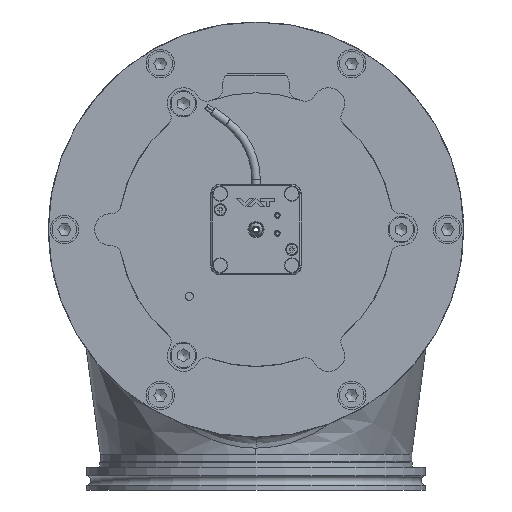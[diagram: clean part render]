
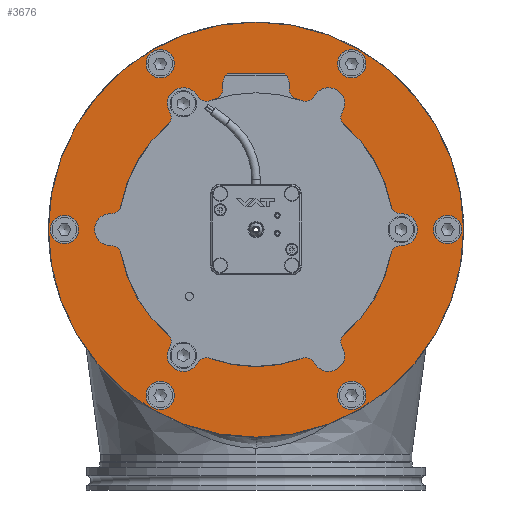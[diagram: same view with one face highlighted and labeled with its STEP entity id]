
A CAD part, left-side view. The second image highlights one B-rep face of the part: STEP entity #3676.
In plain terms, the highlighted planar face has unit normal (-1, 0, 0).
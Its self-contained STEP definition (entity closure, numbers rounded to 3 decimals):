
#3676=ADVANCED_FACE('BCT_REF_36137',(#5092,#5093,#5094,#5095,#5096,#5097,
#5098,#5099,#5100,#5101,#5102),#4015,.T.);
#4015=PLANE('',#14286);
#4595=CIRCLE('',#14275,3.4);
#4596=CIRCLE('',#14276,3.4);
#4597=CIRCLE('',#14277,3.4);
#4598=CIRCLE('',#14278,7.5);
#4599=CIRCLE('',#14279,7.5);
#4600=CIRCLE('',#14280,7.5);
#4601=CIRCLE('',#14281,7.5);
#4602=CIRCLE('',#14282,7.5);
#4603=CIRCLE('',#14283,7.5);
#4604=CIRCLE('',#14284,72.645);
#4605=CIRCLE('',#14285,110.);
#5092=FACE_BOUND('',#6072,.T.);
#5093=FACE_BOUND('',#6073,.T.);
#5094=FACE_BOUND('',#6074,.T.);
#5095=FACE_BOUND('',#6075,.T.);
#5096=FACE_BOUND('',#6076,.T.);
#5097=FACE_BOUND('',#6077,.T.);
#5098=FACE_BOUND('',#6078,.T.);
#5099=FACE_BOUND('',#6079,.T.);
#5100=FACE_BOUND('',#6080,.T.);
#5101=FACE_BOUND('',#6081,.T.);
#5102=FACE_BOUND('',#6082,.T.);
#6072=EDGE_LOOP('',(#9071));
#6073=EDGE_LOOP('',(#9072));
#6074=EDGE_LOOP('',(#9073));
#6075=EDGE_LOOP('',(#9074));
#6076=EDGE_LOOP('',(#9075));
#6077=EDGE_LOOP('',(#9076));
#6078=EDGE_LOOP('',(#9077));
#6079=EDGE_LOOP('',(#9078));
#6080=EDGE_LOOP('',(#9079));
#6081=EDGE_LOOP('',(#9080));
#6082=EDGE_LOOP('',(#9081));
#9071=ORIENTED_EDGE('',*,*,#11721,.T.);
#9072=ORIENTED_EDGE('',*,*,#11722,.T.);
#9073=ORIENTED_EDGE('',*,*,#11723,.T.);
#9074=ORIENTED_EDGE('',*,*,#11724,.T.);
#9075=ORIENTED_EDGE('',*,*,#11725,.T.);
#9076=ORIENTED_EDGE('',*,*,#11726,.T.);
#9077=ORIENTED_EDGE('',*,*,#11727,.T.);
#9078=ORIENTED_EDGE('',*,*,#11728,.T.);
#9079=ORIENTED_EDGE('',*,*,#11729,.T.);
#9080=ORIENTED_EDGE('',*,*,#11730,.T.);
#9081=ORIENTED_EDGE('',*,*,#11731,.T.);
#10218=VERTEX_POINT('',#24273);
#10219=VERTEX_POINT('',#24275);
#10220=VERTEX_POINT('',#24277);
#10221=VERTEX_POINT('',#24279);
#10222=VERTEX_POINT('',#24281);
#10223=VERTEX_POINT('',#24283);
#10224=VERTEX_POINT('',#24285);
#10225=VERTEX_POINT('',#24287);
#10226=VERTEX_POINT('',#24289);
#10227=VERTEX_POINT('',#24291);
#10228=VERTEX_POINT('',#24293);
#11721=EDGE_CURVE('BCT_REF_43192',#10218,#10218,#4595,.T.);
#11722=EDGE_CURVE('',#10219,#10219,#4596,.T.);
#11723=EDGE_CURVE('',#10220,#10220,#4597,.T.);
#11724=EDGE_CURVE('BCT_REF_95660',#10221,#10221,#4598,.T.);
#11725=EDGE_CURVE('',#10222,#10222,#4599,.T.);
#11726=EDGE_CURVE('BCT_REF_43177',#10223,#10223,#4600,.T.);
#11727=EDGE_CURVE('',#10224,#10224,#4601,.T.);
#11728=EDGE_CURVE('',#10225,#10225,#4602,.T.);
#11729=EDGE_CURVE('BCT_REF_95633',#10226,#10226,#4603,.T.);
#11730=EDGE_CURVE('',#10227,#10227,#4604,.T.);
#11731=EDGE_CURVE('',#10228,#10228,#4605,.T.);
#14275=AXIS2_PLACEMENT_3D('',#24272,#17379,#17380);
#14276=AXIS2_PLACEMENT_3D('',#24274,#17381,#17382);
#14277=AXIS2_PLACEMENT_3D('',#24276,#17383,#17384);
#14278=AXIS2_PLACEMENT_3D('',#24278,#17385,#17386);
#14279=AXIS2_PLACEMENT_3D('',#24280,#17387,#17388);
#14280=AXIS2_PLACEMENT_3D('',#24282,#17389,#17390);
#14281=AXIS2_PLACEMENT_3D('',#24284,#17391,#17392);
#14282=AXIS2_PLACEMENT_3D('',#24286,#17393,#17394);
#14283=AXIS2_PLACEMENT_3D('',#24288,#17395,#17396);
#14284=AXIS2_PLACEMENT_3D('',#24290,#17397,#17398);
#14285=AXIS2_PLACEMENT_3D('',#24292,#17399,#17400);
#14286=AXIS2_PLACEMENT_3D('',#24294,#17401,#17402);
#17379=DIRECTION('',(1.,0.,0.));
#17380=DIRECTION('',(0.,-0.866,0.5));
#17381=DIRECTION('',(1.,0.,0.));
#17382=DIRECTION('',(0.,0.866,0.5));
#17383=DIRECTION('',(1.,0.,0.));
#17384=DIRECTION('',(0.,0.,-1.));
#17385=DIRECTION('',(1.,0.,0.));
#17386=DIRECTION('',(0.,-0.866,-0.5));
#17387=DIRECTION('',(1.,0.,0.));
#17388=DIRECTION('',(0.,-0.866,0.5));
#17389=DIRECTION('',(1.,0.,0.));
#17390=DIRECTION('',(0.,0.,1.));
#17391=DIRECTION('',(1.,0.,0.));
#17392=DIRECTION('',(0.,0.866,0.5));
#17393=DIRECTION('',(1.,0.,0.));
#17394=DIRECTION('',(0.,0.866,-0.5));
#17395=DIRECTION('',(1.,0.,0.));
#17396=DIRECTION('',(0.,0.,-1.));
#17397=DIRECTION('',(1.,0.,0.));
#17398=DIRECTION('',(0.,0.,1.));
#17399=DIRECTION('',(-1.,0.,0.));
#17400=DIRECTION('',(0.,0.,1.));
#17401=DIRECTION('',(-1.,0.,0.));
#17402=DIRECTION('',(0.,0.,1.));
#24272=CARTESIAN_POINT('',(0.,-66.684,-38.5));
#24273=CARTESIAN_POINT('',(0.,-69.628,-36.8));
#24274=CARTESIAN_POINT('',(0.,0.,77.));
#24275=CARTESIAN_POINT('',(0.,2.944,78.7));
#24276=CARTESIAN_POINT('',(0.,66.684,-38.5));
#24277=CARTESIAN_POINT('',(0.,66.684,-41.9));
#24278=CARTESIAN_POINT('',(0.,87.902,-50.75));
#24279=CARTESIAN_POINT('',(0.,81.406,-54.5));
#24280=CARTESIAN_POINT('',(0.,0.,-101.5));
#24281=CARTESIAN_POINT('',(0.,-6.495,-97.75));
#24282=CARTESIAN_POINT('',(0.,-87.902,-50.75));
#24283=CARTESIAN_POINT('',(0.,-87.902,-43.25));
#24284=CARTESIAN_POINT('',(0.,-87.902,50.75));
#24285=CARTESIAN_POINT('',(0.,-81.406,54.5));
#24286=CARTESIAN_POINT('',(0.,0.,101.5));
#24287=CARTESIAN_POINT('',(0.,6.495,97.75));
#24288=CARTESIAN_POINT('',(0.,87.902,50.75));
#24289=CARTESIAN_POINT('',(0.,87.902,43.25));
#24290=CARTESIAN_POINT('',(0.,0.,0.));
#24291=CARTESIAN_POINT('',(0.,0.,72.645));
#24292=CARTESIAN_POINT('',(0.,0.,0.));
#24293=CARTESIAN_POINT('',(0.,0.,110.));
#24294=CARTESIAN_POINT('',(0.,72.145,0.));
